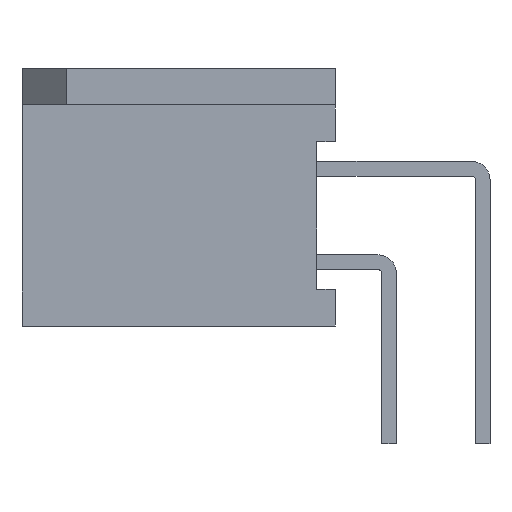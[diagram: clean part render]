
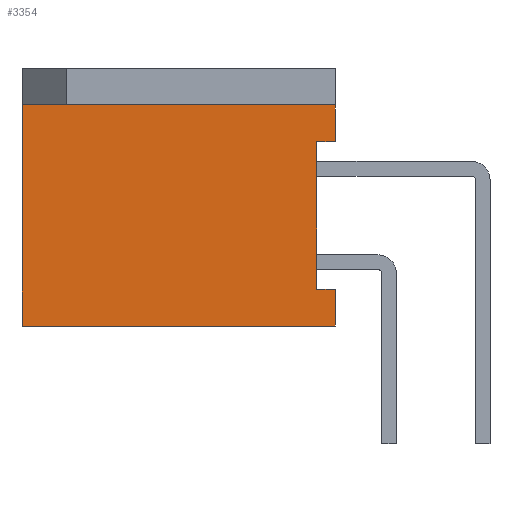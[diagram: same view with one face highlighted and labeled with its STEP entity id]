
A CAD part, left-side view. The second image highlights one B-rep face of the part: STEP entity #3354.
In plain terms, the highlighted planar face has unit normal (-1, 0, 0).
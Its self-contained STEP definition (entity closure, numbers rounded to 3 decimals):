
#26 = VECTOR ( 'NONE', #1843, 1000. ) ;
#84 = CARTESIAN_POINT ( 'NONE',  ( -12.7, 0., -0.5 ) ) ;
#158 = DIRECTION ( 'NONE',  ( 0., 1., 0. ) ) ;
#203 = CARTESIAN_POINT ( 'NONE',  ( -12.7, 0., 0.5 ) ) ;
#257 = CARTESIAN_POINT ( 'NONE',  ( -12.7, 0., -5. ) ) ;
#407 = VECTOR ( 'NONE', #6070, 1000. ) ;
#464 = VERTEX_POINT ( 'NONE', #3413 ) ;
#468 = CARTESIAN_POINT ( 'NONE',  ( -12.7, 0.5, -1.099 ) ) ;
#471 = DIRECTION ( 'NONE',  ( -1., 0., 0. ) ) ;
#504 = LINE ( 'NONE', #6069, #4028 ) ;
#599 = ORIENTED_EDGE ( 'NONE', *, *, #6689, .T. ) ;
#893 = EDGE_CURVE ( 'NONE', #2575, #6820, #5613, .T. ) ;
#926 = CARTESIAN_POINT ( 'NONE',  ( -12.7, 8.5, -5.5 ) ) ;
#1003 = DIRECTION ( 'NONE',  ( 0., 1., 0. ) ) ;
#1025 = ORIENTED_EDGE ( 'NONE', *, *, #7141, .T. ) ;
#1050 = CARTESIAN_POINT ( 'NONE',  ( -12.7, 0., -5. ) ) ;
#1118 = DIRECTION ( 'NONE',  ( 0., 0., -1. ) ) ;
#1724 = EDGE_CURVE ( 'NONE', #464, #5789, #2208, .T. ) ;
#1843 = DIRECTION ( 'NONE',  ( 0., 0., 1. ) ) ;
#2113 = EDGE_CURVE ( 'NONE', #3976, #4528, #5511, .T. ) ;
#2129 = EDGE_CURVE ( 'NONE', #3568, #464, #3274, .T. ) ;
#2208 = LINE ( 'NONE', #5007, #5701 ) ;
#2274 = DIRECTION ( 'NONE',  ( 0., 0., 1. ) ) ;
#2288 = VECTOR ( 'NONE', #1118, 1000. ) ;
#2575 = VERTEX_POINT ( 'NONE', #6894 ) ;
#2765 = VECTOR ( 'NONE', #5654, 1000. ) ;
#3188 = CARTESIAN_POINT ( 'NONE',  ( -12.7, 0., -4.5 ) ) ;
#3274 = LINE ( 'NONE', #468, #2288 ) ;
#3335 = CARTESIAN_POINT ( 'NONE',  ( -12.7, 8.5, 0.5 ) ) ;
#3354 = ADVANCED_FACE ( 'NONE', ( #6140 ), #6656, .T. ) ;
#3413 = CARTESIAN_POINT ( 'NONE',  ( -12.7, 0.5, -4.5 ) ) ;
#3424 = ORIENTED_EDGE ( 'NONE', *, *, #7268, .F. ) ;
#3568 = VERTEX_POINT ( 'NONE', #3596 ) ;
#3596 = CARTESIAN_POINT ( 'NONE',  ( -12.7, 0.5, -0.5 ) ) ;
#3767 = CARTESIAN_POINT ( 'NONE',  ( -12.7, 8.5, 0.5 ) ) ;
#3976 = VERTEX_POINT ( 'NONE', #926 ) ;
#4028 = VECTOR ( 'NONE', #7197, 1000. ) ;
#4501 = LINE ( 'NONE', #3335, #5942 ) ;
#4528 = VERTEX_POINT ( 'NONE', #3767 ) ;
#4719 = VERTEX_POINT ( 'NONE', #6155 ) ;
#4865 = EDGE_CURVE ( 'NONE', #4719, #5789, #5302, .T. ) ;
#5007 = CARTESIAN_POINT ( 'NONE',  ( -12.7, 0., -4.5 ) ) ;
#5203 = LINE ( 'NONE', #84, #6632 ) ;
#5302 = LINE ( 'NONE', #257, #26 ) ;
#5511 = LINE ( 'NONE', #6726, #407 ) ;
#5554 = ORIENTED_EDGE ( 'NONE', *, *, #1724, .F. ) ;
#5600 = ORIENTED_EDGE ( 'NONE', *, *, #893, .T. ) ;
#5613 = LINE ( 'NONE', #6203, #2765 ) ;
#5654 = DIRECTION ( 'NONE',  ( 0., 0., 1. ) ) ;
#5701 = VECTOR ( 'NONE', #6628, 1000. ) ;
#5757 = ORIENTED_EDGE ( 'NONE', *, *, #2113, .F. ) ;
#5789 = VERTEX_POINT ( 'NONE', #3188 ) ;
#5850 = AXIS2_PLACEMENT_3D ( 'NONE', #1050, #471, #2274 ) ;
#5942 = VECTOR ( 'NONE', #1003, 1000. ) ;
#6069 = CARTESIAN_POINT ( 'NONE',  ( -12.7, 8.5, -5.5 ) ) ;
#6070 = DIRECTION ( 'NONE',  ( 0., 0., 1. ) ) ;
#6140 = FACE_OUTER_BOUND ( 'NONE', #6616, .T. ) ;
#6155 = CARTESIAN_POINT ( 'NONE',  ( -12.7, 0., -5.5 ) ) ;
#6203 = CARTESIAN_POINT ( 'NONE',  ( -12.7, 0., -5. ) ) ;
#6616 = EDGE_LOOP ( 'NONE', ( #5554, #7239, #3424, #5600, #1025, #5757, #599, #7190 ) ) ;
#6628 = DIRECTION ( 'NONE',  ( 0., -1., 0. ) ) ;
#6632 = VECTOR ( 'NONE', #158, 1000. ) ;
#6656 = PLANE ( 'NONE',  #5850 ) ;
#6689 = EDGE_CURVE ( 'NONE', #3976, #4719, #504, .T. ) ;
#6726 = CARTESIAN_POINT ( 'NONE',  ( -12.7, 8.5, -5. ) ) ;
#6820 = VERTEX_POINT ( 'NONE', #203 ) ;
#6894 = CARTESIAN_POINT ( 'NONE',  ( -12.7, 0., -0.5 ) ) ;
#7141 = EDGE_CURVE ( 'NONE', #6820, #4528, #4501, .T. ) ;
#7190 = ORIENTED_EDGE ( 'NONE', *, *, #4865, .T. ) ;
#7197 = DIRECTION ( 'NONE',  ( 0., -1., 0. ) ) ;
#7239 = ORIENTED_EDGE ( 'NONE', *, *, #2129, .F. ) ;
#7268 = EDGE_CURVE ( 'NONE', #2575, #3568, #5203, .T. ) ;
